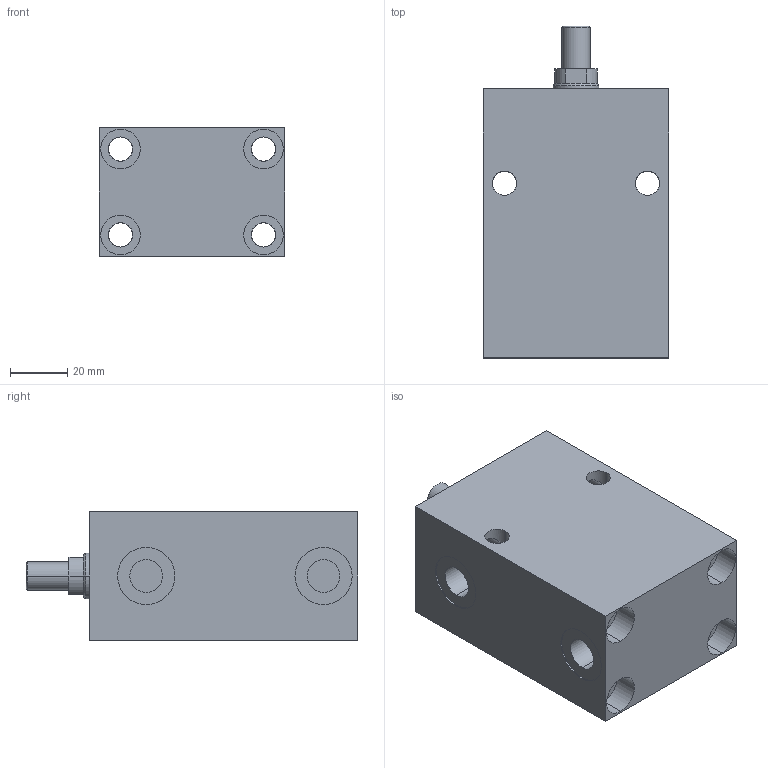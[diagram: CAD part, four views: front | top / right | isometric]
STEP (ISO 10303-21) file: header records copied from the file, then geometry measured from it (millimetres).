
FILE_DESCRIPTION (( 'STEP AP203' ), '1' );
FILE_NAME ('GERMA_Blockzylinder_600-025-050-A.STEP', '2015-06-20T17:50:57', ( '' ), ( '' ), 'SwSTEP 2.0', 'SolidWorks 2013', '' );
FILE_SCHEMA (( 'CONFIG_CONTROL_DESIGN' ));
Length unit declared in the file: millimetre
Products named in the file (3): GERMA_Blockzylinder_600-025-050-A; GH-600-025_GH-600-025-050; Kolben 60x-025_Kolben DU.25-Hub50-AG
Assembly tree (2 placements, depth 2):
  GERMA_Blockzylinder_600-025-050-A
    GH-600-025_GH-600-025-050
    Kolben 60x-025_Kolben DU.25-Hub50-AG
Bounding box: 65 x 116 x 45 mm (x, y, z)
Volume: 228330.8 mm3; surface area: 52404.8 mm2
Topology: 2 solids, 2 shells, 113 faces, 258 edges, 157 vertices
Faces by surface type: cylinder 71, plane 30, cone 12
Entity records: 3498 total; most frequent: CARTESIAN_POINT 625, DIRECTION 579, ORIENTED_EDGE 508, EDGE_CURVE 254, AXIS2_PLACEMENT_3D 239, VERTEX_POINT 157, EDGE_LOOP 145, CIRCLE 121
